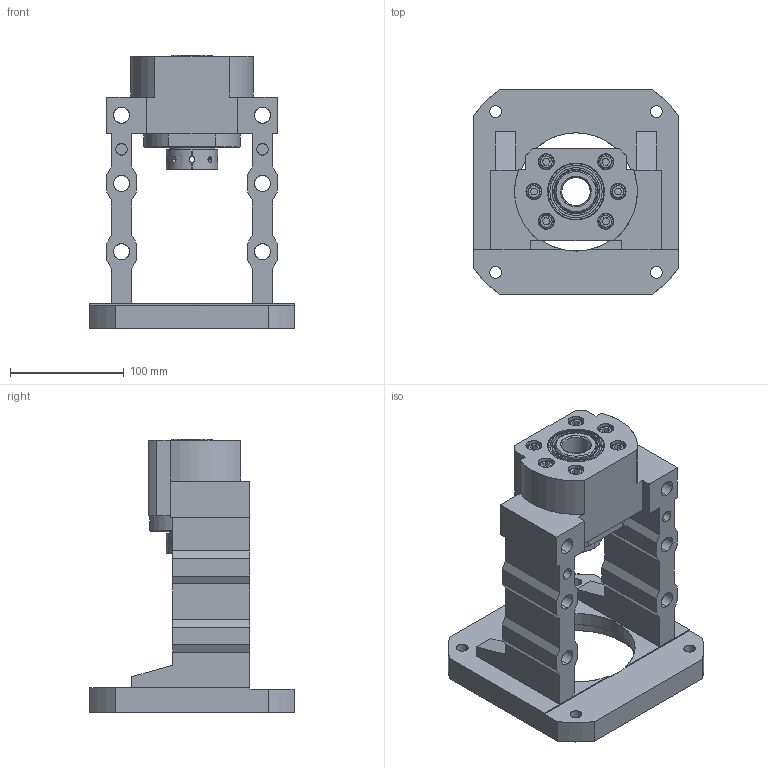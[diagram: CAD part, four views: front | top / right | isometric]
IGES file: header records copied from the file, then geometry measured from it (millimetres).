
Start section: SolidWorks IGES file using analytic representation for surfaces
Bounding box: 180 x 180 x 241 mm (x, y, z)
Surface area: 224585.2 mm2 (no closed solid volume)
Topology: 0 solids, 0 shells, 342 faces, 6044 edges, 6036 vertices
Faces by surface type: revolution 181, bspline 161
